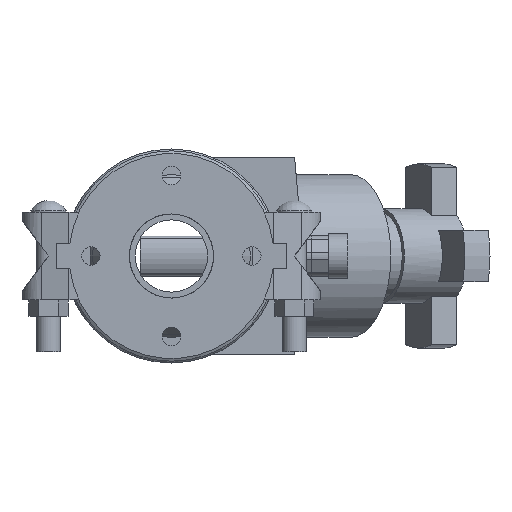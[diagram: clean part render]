
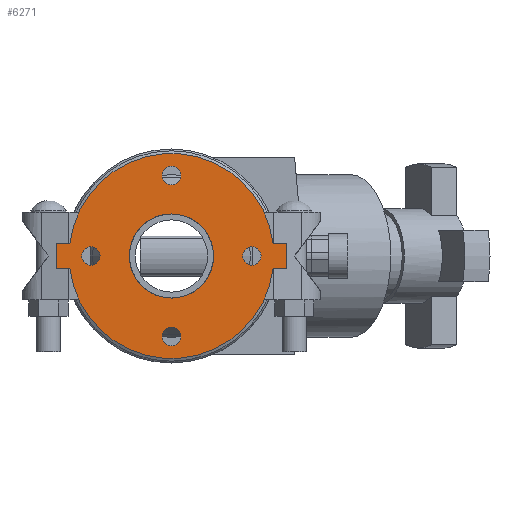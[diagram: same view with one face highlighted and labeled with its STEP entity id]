
A CAD part, front view. The second image highlights one B-rep face of the part: STEP entity #6271.
In plain terms, the highlighted planar face has unit normal (0, -1, 0) as drawn and (0, 0, 1) by its records, which use the part's own axes.
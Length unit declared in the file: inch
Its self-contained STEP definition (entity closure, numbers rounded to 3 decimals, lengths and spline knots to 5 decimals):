
#174=FACE_BOUND('',#792,.T.);
#175=FACE_BOUND('',#793,.T.);
#176=FACE_BOUND('',#794,.T.);
#177=FACE_BOUND('',#795,.T.);
#178=FACE_BOUND('',#796,.T.);
#241=PLANE('',#6825);
#446=FACE_OUTER_BOUND('',#791,.T.);
#791=EDGE_LOOP('',(#4058,#4059,#4060,#4061,#4062,#4063,#4064,#4065));
#792=EDGE_LOOP('',(#4066));
#793=EDGE_LOOP('',(#4067));
#794=EDGE_LOOP('',(#4068));
#795=EDGE_LOOP('',(#4069));
#796=EDGE_LOOP('',(#4070,#4071));
#1193=LINE('',#9578,#1663);
#1194=LINE('',#9581,#1664);
#1197=LINE('',#9586,#1667);
#1198=LINE('',#9589,#1668);
#1200=LINE('',#9592,#1670);
#1201=LINE('',#9594,#1671);
#1663=VECTOR('',#7612,0.3937);
#1664=VECTOR('',#7615,0.3937);
#1667=VECTOR('',#7620,0.3937);
#1668=VECTOR('',#7623,0.3937);
#1670=VECTOR('',#7627,0.3937);
#1671=VECTOR('',#7630,0.3937);
#2117=CIRCLE('',#6796,0.3125);
#2119=CIRCLE('',#6799,0.3125);
#2121=CIRCLE('',#6802,0.3125);
#2123=CIRCLE('',#6805,0.3125);
#2129=CIRCLE('',#6813,3.5);
#2130=CIRCLE('',#6815,1.4375);
#2131=CIRCLE('',#6816,1.4375);
#2132=CIRCLE('',#6818,3.5);
#2479=VERTEX_POINT('',#9513);
#2481=VERTEX_POINT('',#9519);
#2483=VERTEX_POINT('',#9525);
#2485=VERTEX_POINT('',#9531);
#2497=VERTEX_POINT('',#9558);
#2498=VERTEX_POINT('',#9560);
#2499=VERTEX_POINT('',#9564);
#2500=VERTEX_POINT('',#9566);
#2501=VERTEX_POINT('',#9570);
#2502=VERTEX_POINT('',#9572);
#2503=VERTEX_POINT('',#9576);
#2504=VERTEX_POINT('',#9580);
#2505=VERTEX_POINT('',#9584);
#2506=VERTEX_POINT('',#9588);
#3089=EDGE_CURVE('',#2479,#2479,#2117,.T.);
#3092=EDGE_CURVE('',#2481,#2481,#2119,.T.);
#3095=EDGE_CURVE('',#2483,#2483,#2121,.T.);
#3098=EDGE_CURVE('',#2485,#2485,#2123,.T.);
#3113=EDGE_CURVE('',#2497,#2498,#2129,.T.);
#3115=EDGE_CURVE('',#2500,#2499,#2130,.T.);
#3116=EDGE_CURVE('',#2499,#2500,#2131,.T.);
#3118=EDGE_CURVE('',#2502,#2501,#2132,.T.);
#3121=EDGE_CURVE('',#2498,#2503,#1193,.T.);
#3122=EDGE_CURVE('',#2504,#2502,#1194,.T.);
#3125=EDGE_CURVE('',#2501,#2505,#1197,.T.);
#3126=EDGE_CURVE('',#2506,#2497,#1198,.T.);
#3128=EDGE_CURVE('',#2505,#2506,#1200,.T.);
#3129=EDGE_CURVE('',#2503,#2504,#1201,.T.);
#4058=ORIENTED_EDGE('',*,*,#3125,.T.);
#4059=ORIENTED_EDGE('',*,*,#3128,.T.);
#4060=ORIENTED_EDGE('',*,*,#3126,.T.);
#4061=ORIENTED_EDGE('',*,*,#3113,.T.);
#4062=ORIENTED_EDGE('',*,*,#3121,.T.);
#4063=ORIENTED_EDGE('',*,*,#3129,.T.);
#4064=ORIENTED_EDGE('',*,*,#3122,.T.);
#4065=ORIENTED_EDGE('',*,*,#3118,.T.);
#4066=ORIENTED_EDGE('',*,*,#3089,.T.);
#4067=ORIENTED_EDGE('',*,*,#3092,.T.);
#4068=ORIENTED_EDGE('',*,*,#3095,.T.);
#4069=ORIENTED_EDGE('',*,*,#3098,.T.);
#4070=ORIENTED_EDGE('',*,*,#3115,.T.);
#4071=ORIENTED_EDGE('',*,*,#3116,.T.);
#6271=ADVANCED_FACE('',(#446,#174,#175,#176,#177,#178),#241,.T.);
#6796=AXIS2_PLACEMENT_3D('',#9514,#7548,#7549);
#6799=AXIS2_PLACEMENT_3D('',#9520,#7555,#7556);
#6802=AXIS2_PLACEMENT_3D('',#9526,#7562,#7563);
#6805=AXIS2_PLACEMENT_3D('',#9532,#7569,#7570);
#6813=AXIS2_PLACEMENT_3D('',#9562,#7594,#7595);
#6815=AXIS2_PLACEMENT_3D('',#9567,#7599,#7600);
#6816=AXIS2_PLACEMENT_3D('',#9568,#7601,#7602);
#6818=AXIS2_PLACEMENT_3D('',#9573,#7606,#7607);
#6825=AXIS2_PLACEMENT_3D('',#9595,#7631,#7632);
#7548=DIRECTION('center_axis',(0.,0.,-1.));
#7549=DIRECTION('ref_axis',(0.,1.,0.));
#7555=DIRECTION('center_axis',(0.,0.,-1.));
#7556=DIRECTION('ref_axis',(1.,0.,0.));
#7562=DIRECTION('center_axis',(0.,0.,-1.));
#7563=DIRECTION('ref_axis',(0.,-1.,0.));
#7569=DIRECTION('center_axis',(0.,0.,-1.));
#7570=DIRECTION('ref_axis',(-1.,0.,0.));
#7594=DIRECTION('center_axis',(0.,0.,1.));
#7595=DIRECTION('ref_axis',(-1.,0.,0.));
#7599=DIRECTION('center_axis',(0.,0.,-1.));
#7600=DIRECTION('ref_axis',(-1.,0.,0.));
#7601=DIRECTION('center_axis',(0.,0.,-1.));
#7602=DIRECTION('ref_axis',(-1.,0.,0.));
#7606=DIRECTION('center_axis',(0.,0.,1.));
#7607=DIRECTION('ref_axis',(-1.,0.,0.));
#7612=DIRECTION('',(0.,1.,0.));
#7615=DIRECTION('',(0.,-1.,0.));
#7620=DIRECTION('',(0.,-1.,0.));
#7623=DIRECTION('',(0.,1.,0.));
#7627=DIRECTION('',(1.,0.,0.));
#7630=DIRECTION('',(-1.,0.,0.));
#7631=DIRECTION('center_axis',(0.,0.,1.));
#7632=DIRECTION('ref_axis',(1.,0.,0.));
#9513=CARTESIAN_POINT('',(0.,2.4375,0.44));
#9514=CARTESIAN_POINT('Origin',(0.,2.75,0.44));
#9519=CARTESIAN_POINT('',(2.4375,0.,0.44));
#9520=CARTESIAN_POINT('Origin',(2.75,0.,0.44));
#9525=CARTESIAN_POINT('',(0.,-2.4375,0.44));
#9526=CARTESIAN_POINT('Origin',(0.,-2.75,0.44));
#9531=CARTESIAN_POINT('',(-2.4375,0.,0.44));
#9532=CARTESIAN_POINT('Origin',(-2.75,0.,0.44));
#9558=CARTESIAN_POINT('',(0.44,-3.47223,0.44));
#9560=CARTESIAN_POINT('',(0.44,3.47223,0.44));
#9562=CARTESIAN_POINT('Origin',(0.,0.,0.44));
#9564=CARTESIAN_POINT('',(1.4375,0.,0.44));
#9566=CARTESIAN_POINT('',(0.44,1.36851,0.44));
#9567=CARTESIAN_POINT('Origin',(0.,0.,0.44));
#9568=CARTESIAN_POINT('Origin',(0.,0.,0.44));
#9570=CARTESIAN_POINT('',(-0.44,-3.47223,0.44));
#9572=CARTESIAN_POINT('',(-0.44,3.47223,0.44));
#9573=CARTESIAN_POINT('Origin',(0.,0.,0.44));
#9576=CARTESIAN_POINT('',(0.44,3.94,0.44));
#9578=CARTESIAN_POINT('',(0.44,3.94,0.44));
#9580=CARTESIAN_POINT('',(-0.44,3.94,0.44));
#9581=CARTESIAN_POINT('',(-0.44,-3.94,0.44));
#9584=CARTESIAN_POINT('',(-0.44,-3.94,0.44));
#9586=CARTESIAN_POINT('',(-0.44,-3.94,0.44));
#9588=CARTESIAN_POINT('',(0.44,-3.94,0.44));
#9589=CARTESIAN_POINT('',(0.44,3.94,0.44));
#9592=CARTESIAN_POINT('',(0.44,-3.94,0.44));
#9594=CARTESIAN_POINT('',(-0.44,3.94,0.44));
#9595=CARTESIAN_POINT('Origin',(0.,0.,0.44));
